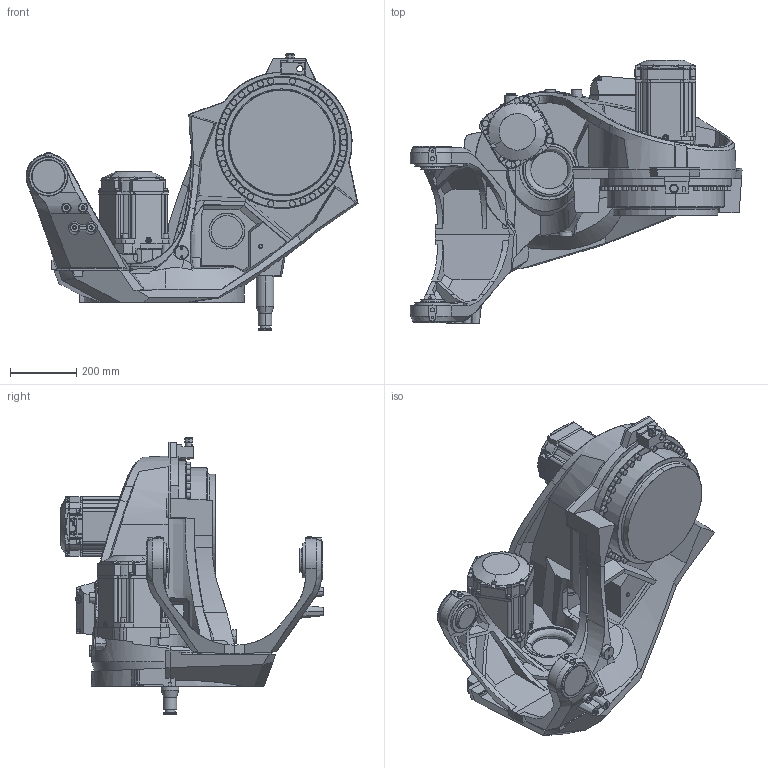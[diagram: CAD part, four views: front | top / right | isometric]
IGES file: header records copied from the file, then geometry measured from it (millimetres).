
Start section: SolidWorks IGES file using analytic representation for surfaces
Global section: file name: C:\Data\SAP_DOC\IRB6740_lightweight\6740\IRB6740_240kg-320_OC_01_SW_J\IRB6740_240kg-320_OC_01_IGES_J\IRB6740_240kg-320_OC_00_LINK01_CAD.igs; native system: SolidWorks 2024; preprocessor: SolidWorks 2024; author: SEJAOLS6; date: 260513.070306; units: millimetre
Bounding box: 999.96 x 793.6 x 833.5 mm (x, y, z)
Surface area: 3099014.5 mm2 (no closed solid volume)
Topology: 0 solids, 0 shells, 2315 faces, 33780 edges, 33754 vertices
Faces by surface type: bspline 1386, revolution 929
